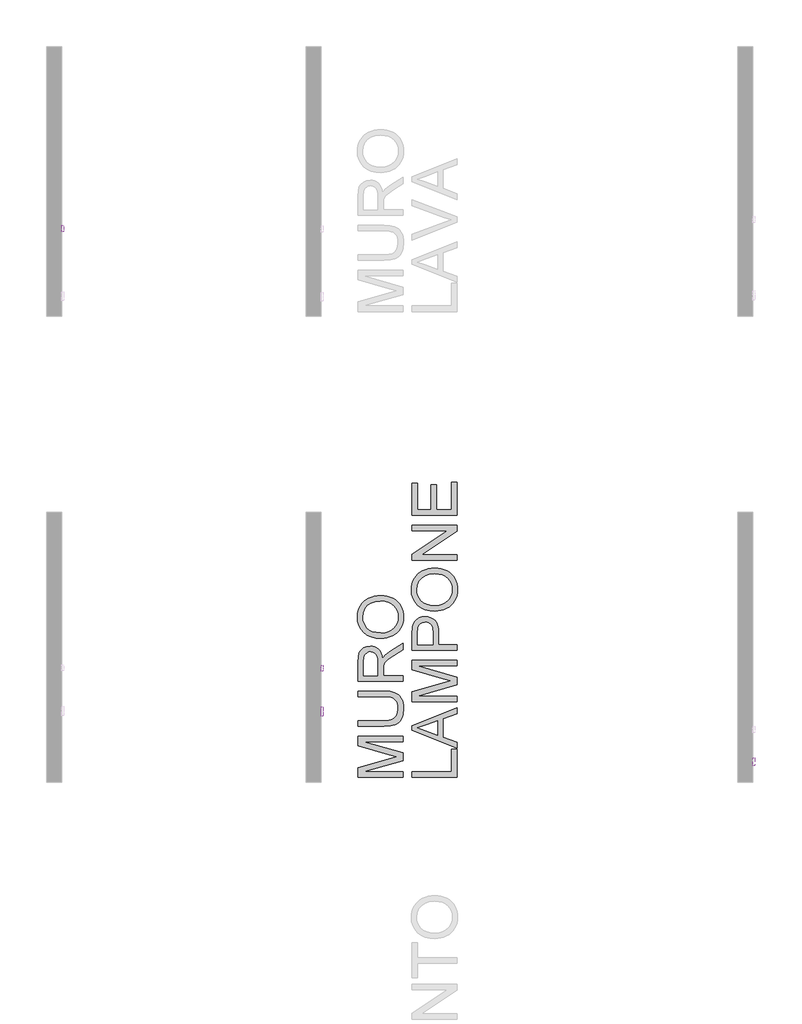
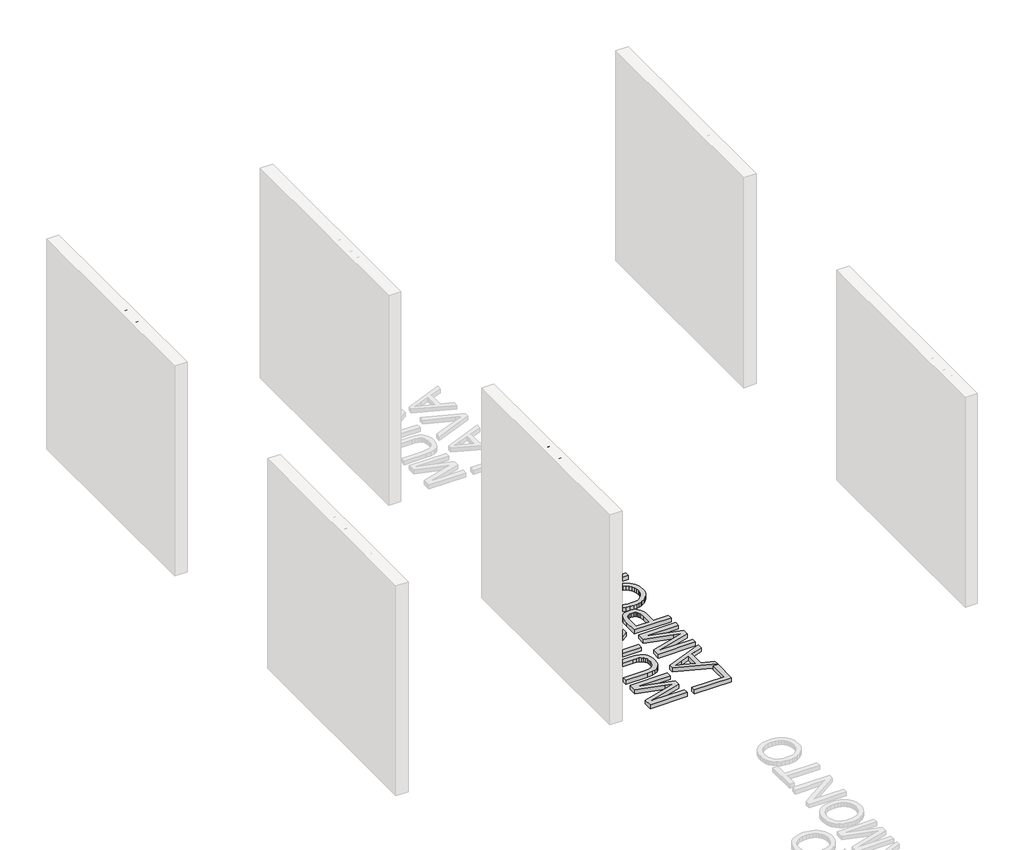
# One storey, part 8 of 11: 5 proxies.
"""IFC4 building model written with IfcOpenShell, lengths in millimetres."""

from ifc_helpers import new_model, si_unit, frame, origin, origin_with_axes, place, context, project, spatial, polyline, outline, extrude, element, save

model = new_model("IFC4")

# Units and contexts
model_context = context("Model", 3, world=origin())
ifc_project = project(units=[si_unit("LENGTHUNIT", "METRE", prefix="MILLI")], contexts=[model_context])

# Site, building, storey
site = spatial("IfcSite", under=ifc_project)
building = spatial("IfcBuilding", under=site)
storey = spatial("IfcBuildingStorey", under=building, Name="PORTOBELLO - SHOWROOM", Elevation=0.0)

# Proxies
placement = place(None, origin())
element("IfcBuildingElementProxy", 1, Name="10mm Arial", ObjectType="10mm Arial", at=placement, inside=storey, context=model_context, shape_type="SweptSolid", body=[
    extrude(outline(polyline([(-1.6884344, 2564.0223305), (-1.6884344, 2664.4786407), (19.9185014, 2664.4786407), (40.4708422, 2593.6736194), (44.6156461, 2578.8847631), (49.1038064, 2594.8998927), (69.3127907, 2664.4786407), (90.9197265, 2664.4786407), (90.9197265, 2564.0223305), (78.3626877, 2564.0223305), (78.3626877, 2651.9216019), (53.1259829, 2564.0223305), (36.1053092, 2564.0223305), (10.8686044, 2651.9216019), (10.8686044, 2564.0223305), (-1.6884344, 2564.0223305)])), frame((-30379.0012486, 0.0, 0.0), z_axis=(1.0, 0.0, 0.0), x_axis=(0.0, 1.0, 0.0)), (0.0, 0.0, 1.0), 20.0),
    extrude(outline(polyline([(158.4138099, 2564.0223305), (158.4138099, 2576.7019966), (148.5790979, 2566.0150247), (135.752279, 2562.4527007), (123.943267, 2564.9542983), (115.8008121, 2571.2328176), (112.0606785, 2580.4789185), (111.3249145, 2592.1530404), (111.3249145, 2637.7949333), (123.8819533, 2637.7949333), (123.8819533, 2598.0636778), (124.6422427, 2585.2613844), (129.6086497, 2577.744329), (138.9651151, 2575.0097395), (149.449752, 2577.8056426), (156.3781962, 2585.4207999), (158.4138099, 2599.4125785), (158.4138099, 2637.7949333), (170.9708487, 2637.7949333), (170.9708487, 2564.0223305), (158.4138099, 2564.0223305)])), frame((-30379.0012486, 0.0, 0.0), z_axis=(1.0, 0.0, 0.0), x_axis=(0.0, 1.0, 0.0)), (0.0, 0.0, 1.0), 20.0),
    extrude(outline(polyline([(188.236777, 2564.0223305), (188.236777, 2637.7949333), (199.2241859, 2637.7949333), (199.2241859, 2626.8811008), (207.0232842, 2636.936542), (214.8714334, 2639.3645632), (227.4775231, 2635.4895395), (223.2836684, 2624.2323504), (214.4545005, 2626.8075244), (207.354378, 2624.3304523), (202.8294295, 2617.4633217), (200.7938157, 2602.7970928), (200.7938157, 2564.0223305), (188.236777, 2564.0223305)])), frame((-30379.0012486, 0.0, 0.0), z_axis=(1.0, 0.0, 0.0), x_axis=(0.0, 1.0, 0.0)), (0.0, 0.0, 1.0), 20.0),
    extrude(outline(polyline([(232.1864127, 2600.9086319), (234.9026081, 2618.6957264), (243.0511943, 2631.1975829), (253.1188982, 2637.3228181), (265.1731649, 2639.3645632), (278.3648001, 2636.878294), (288.9015536, 2629.4194865), (295.808538, 2617.576752), (298.1108662, 2601.9387015), (294.0396388, 2579.5960017), (282.1815758, 2566.9531238), (265.1731649, 2562.4527007), (251.8221142, 2564.9297728), (241.2976234, 2572.3609891), (234.4642154, 2584.452044), (232.1864127, 2600.9086319)]), holes=[polyline([(244.7434514, 2600.9331574), (246.1965853, 2589.5686694), (250.555987, 2581.4721998), (257.1165492, 2576.6253546), (265.1731649, 2575.0097395), (273.1929924, 2576.6345516), (279.7412919, 2581.508988), (284.1006936, 2589.7127565), (285.5538274, 2601.3255649), (284.0914965, 2612.358959), (279.7045037, 2620.345064), (273.1470071, 2625.1919093), (265.1731649, 2626.8075244), (257.1165492, 2625.1980407), (250.555987, 2620.3695895), (246.1965853, 2612.291514), (244.7434514, 2600.9331574)])]), frame((-30379.0012486, 0.0, 0.0), z_axis=(1.0, 0.0, 0.0), x_axis=(0.0, 1.0, 0.0)), (0.0, 0.0, 1.0), 20.0),
    extrude(outline(polyline([(353.0479108, 2564.0223305), (353.0479108, 2664.4786407), (365.6049496, 2664.4786407), (365.6049496, 2576.5793693), (415.8331047, 2576.5793693), (415.8331047, 2564.0223305), (353.0479108, 2564.0223305)])), frame((-30379.0012486, 0.0, 0.0), z_axis=(1.0, 0.0, 0.0), x_axis=(0.0, 1.0, 0.0)), (0.0, 0.0, 1.0), 20.0),
    extrude(outline(polyline([(475.4790388, 2573.4401096), (463.3021448, 2564.9297728), (449.8499265, 2562.4527007), (439.3560926, 2563.9426228), (431.6152423, 2568.412389), (426.8419734, 2575.1998118), (425.2508837, 2583.6427036), (427.6543794, 2593.5755175), (433.969687, 2600.7860046), (442.7620667, 2604.9062829), (453.6268483, 2606.7947438), (475.4054624, 2611.1112259), (475.4790388, 2613.9071291), (472.0209481, 2623.1777554), (458.1395341, 2626.8075244), (445.4353425, 2624.3917659), (439.3775523, 2615.8201155), (426.8205136, 2617.3897453), (432.2529044, 2629.6524785), (443.1912624, 2636.8384401), (459.7582149, 2639.3645632), (474.9762667, 2637.1327457), (483.5724427, 2631.5286767), (487.4229409, 2623.0060771), (488.0360776, 2612.0186682), (488.0360776, 2596.3959461), (488.6737397, 2574.5805438), (491.1753373, 2564.0223305), (478.6182985, 2564.0223305), (475.4790388, 2573.4401096)]), holes=[polyline([(475.4790388, 2598.5541872), (455.2210036, 2594.7036889), (444.4175357, 2592.6680752), (439.5247051, 2589.3571373), (437.8079225, 2584.5256204), (441.5480561, 2577.7320662), (452.5232023, 2575.0097395), (465.2273939, 2578.0141091), (473.4188996, 2585.2859099), (475.4054624, 2594.9979945), (475.4790388, 2598.5541872)])]), frame((-30379.0012486, 0.0, 0.0), z_axis=(1.0, 0.0, 0.0), x_axis=(0.0, 1.0, 0.0)), (0.0, 0.0, 1.0), 20.0),
    extrude(outline(polyline([(505.3020059, 2564.0223305), (505.3020059, 2637.7949333), (517.8590447, 2637.7949333), (517.8590447, 2625.6548275), (526.4920088, 2635.5999041), (538.7792674, 2639.3645632), (551.3608317, 2635.5263277), (558.2770132, 2624.7719107), (568.074937, 2635.7164), (580.4480348, 2639.3645632), (589.8872736, 2637.8470499), (596.8678345, 2633.2945102), (601.1812509, 2625.5843167), (602.6190563, 2614.5938421), (602.6190563, 2564.0223305), (590.0620176, 2564.0223305), (590.0620176, 2609.1982395), (588.8970579, 2619.6828764), (584.6786777, 2624.8454871), (577.5049788, 2626.8075244), (565.1564065, 2621.7798038), (561.4683895, 2615.2376356), (560.2390505, 2605.6665724), (560.2390505, 2564.0223305), (547.6820117, 2564.0223305), (547.6820117, 2610.5961911), (544.775744, 2622.7608224), (535.2476003, 2626.8075244), (525.9524485, 2624.1097231), (519.772031, 2616.2125229), (517.8590447, 2601.227463), (517.8590447, 2564.0223305), (505.3020059, 2564.0223305)])), frame((-30379.0012486, 0.0, 0.0), z_axis=(1.0, 0.0, 0.0), x_axis=(0.0, 1.0, 0.0)), (0.0, 0.0, 1.0), 20.0),
    extrude(outline(polyline([(621.4546145, 2535.7689933), (621.4546145, 2637.7949333), (634.0116533, 2637.7949333), (634.0116533, 2625.4831492), (642.6936684, 2635.8942097), (654.4168413, 2639.3645632), (670.3338689, 2634.5085208), (680.7326667, 2620.8233106), (684.2398083, 2601.4727176), (680.2789455, 2581.1288433), (668.7765018, 2567.2719548), (652.8962623, 2562.4527007), (641.9701671, 2565.6777995), (634.0116533, 2573.8325171), (634.0116533, 2535.7689933), (621.4546145, 2535.7689933)]), holes=[polyline([(634.0116533, 2600.3200207), (635.369751, 2589.0628317), (639.4440441, 2581.190157), (645.455849, 2576.5548438), (652.6264822, 2575.0097395), (659.9136114, 2576.6100261), (666.0787005, 2581.4108862), (670.2817523, 2589.5717351), (671.6827696, 2601.2519885), (670.3154748, 2612.4478638), (666.2135906, 2620.4309031), (660.2109827, 2625.2133691), (653.141517, 2626.8075244), (646.0444602, 2625.1122015), (639.8119261, 2620.0262329), (635.4617215, 2611.7090342), (634.0116533, 2600.3200207)])]), frame((-30379.0012486, 0.0, 0.0), z_axis=(1.0, 0.0, 0.0), x_axis=(0.0, 1.0, 0.0)), (0.0, 0.0, 1.0), 20.0),
    extrude(outline(polyline([(695.2272173, 2600.9086319), (697.9434127, 2618.6957264), (706.0919989, 2631.1975829), (716.1597028, 2637.3228181), (728.2139695, 2639.3645632), (741.4056047, 2636.878294), (751.9423582, 2629.4194865), (758.8493426, 2617.576752), (761.1516708, 2601.9387015), (757.0804434, 2579.5960017), (745.2223804, 2566.9531238), (728.2139695, 2562.4527007), (714.8629188, 2564.9297728), (704.338428, 2572.3609891), (697.5050199, 2584.452044), (695.2272173, 2600.9086319)]), holes=[polyline([(707.784256, 2600.9331574), (709.2373899, 2589.5686694), (713.5967916, 2581.4721998), (720.1573538, 2576.6253546), (728.2139695, 2575.0097395), (736.233797, 2576.6345516), (742.7820965, 2581.508988), (747.1414981, 2589.7127565), (748.594632, 2601.3255649), (747.1323011, 2612.358959), (742.7453083, 2620.345064), (736.1878117, 2625.1919093), (728.2139695, 2626.8075244), (720.1573538, 2625.1980407), (713.5967916, 2620.3695895), (709.2373899, 2612.291514), (707.784256, 2600.9331574)])]), frame((-30379.0012486, 0.0, 0.0), z_axis=(1.0, 0.0, 0.0), x_axis=(0.0, 1.0, 0.0)), (0.0, 0.0, 1.0), 20.0),
    extrude(outline(polyline([(775.2783394, 2564.0223305), (775.2783394, 2637.7949333), (787.8353782, 2637.7949333), (787.8353782, 2627.4942374), (797.4370983, 2636.3969817), (810.54596, 2639.3645632), (822.404023, 2636.9733302), (830.4974269, 2630.6948108), (834.262086, 2621.4609727), (834.9242736, 2609.3208669), (834.9242736, 2564.0223305), (822.3672348, 2564.0223305), (822.3672348, 2607.6286097), (820.9202323, 2618.738646), (815.8066725, 2624.6124951), (807.1859711, 2626.8075244), (793.5620746, 2621.8779056), (789.2670523, 2614.7348636), (787.8353782, 2603.1649748), (787.8353782, 2564.0223305), (775.2783394, 2564.0223305)])), frame((-30379.0012486, 0.0, 0.0), z_axis=(1.0, 0.0, 0.0), x_axis=(0.0, 1.0, 0.0)), (0.0, 0.0, 1.0), 20.0),
    extrude(outline(polyline([(903.840834, 2585.9971484), (916.1526181, 2584.4275185), (911.7165744, 2575.1507609), (904.6379116, 2568.2161853), (895.0760455, 2563.8935718), (883.1903913, 2562.4527007), (868.4567174, 2564.9389698), (857.1198206, 2572.3977773), (849.8909394, 2584.3447451), (847.4813123, 2600.2954953), (849.9154649, 2616.78274), (857.2179225, 2629.1129182), (868.4015351, 2636.8016519), (882.4791528, 2639.3645632), (896.1183778, 2636.8077833), (907.0168819, 2629.1374437), (914.1629896, 2616.8317909), (916.5450256, 2600.3690717), (916.4714492, 2596.9845573), (860.0383511, 2596.9845573), (862.2119206, 2587.5851723), (867.2611009, 2580.6751222), (874.5482301, 2576.4260851), (883.435646, 2575.0097395), (895.7474301, 2577.6339644), (903.840834, 2585.9971484)]), holes=[polyline([(860.0383511, 2609.5415961), (903.9879868, 2609.5415961), (898.9602662, 2620.9214125), (891.6394145, 2625.3359964), (882.4301019, 2626.8075244), (866.9667953, 2622.1108976), (862.101556, 2616.6202588), (860.0383511, 2609.5415961)])]), frame((-30379.0012486, 0.0, 0.0), z_axis=(1.0, 0.0, 0.0), x_axis=(0.0, 1.0, 0.0)), (0.0, 0.0, 1.0), 20.0),
])
element("IfcBuildingElementProxy", 2, Name="10mm Arial", ObjectType="10mm Arial", at=placement, inside=storey, context=model_context, shape_type="SweptSolid", body=[
    extrude(outline(polyline([(11.213076, 2562.4858779), (11.213076, 2662.942188), (24.6530315, 2662.942188), (77.1375295, 2583.3570497), (77.1375295, 2662.942188), (89.6945683, 2662.942188), (89.6945683, 2562.4858779), (76.2546127, 2562.4858779), (23.7701147, 2642.0955416), (23.7701147, 2562.4858779), (11.213076, 2562.4858779)])), frame((-26058.2301018, 0.0, 0.0), z_axis=(1.0, 0.0, 0.0), x_axis=(0.0, 1.0, 0.0)), (0.0, 0.0, 1.0), 20.0),
    extrude(outline(polyline([(161.7503884, 2584.4606957), (174.0621725, 2582.8910659), (169.6261288, 2573.6143082), (162.547466, 2566.6797326), (152.9855999, 2562.3571192), (141.0999457, 2560.916248), (126.3662718, 2563.4025172), (115.029375, 2570.8613246), (107.8004938, 2582.8082924), (105.3908667, 2598.7590426), (107.8250193, 2615.2462874), (115.1274769, 2627.5764656), (126.3110895, 2635.2651993), (140.3887072, 2637.8281105), (154.0279322, 2635.2713306), (164.9264363, 2627.600991), (172.072544, 2615.2953383), (174.45458, 2598.832619), (174.3810036, 2595.4481047), (117.9479055, 2595.4481047), (120.121475, 2586.0487197), (125.1706553, 2579.1386695), (132.4577845, 2574.8896325), (141.3452004, 2573.4732868), (153.6569845, 2576.0975117), (161.7503884, 2584.4606957)]), holes=[polyline([(117.9479055, 2608.0051434), (161.8975412, 2608.0051434), (156.8698206, 2619.3849598), (149.5489689, 2623.7995437), (140.3396563, 2625.2710717), (124.8763497, 2620.5744449), (120.0111104, 2615.0838061), (117.9479055, 2608.0051434)])]), frame((-26058.2301018, 0.0, 0.0), z_axis=(1.0, 0.0, 0.0), x_axis=(0.0, 1.0, 0.0)), (0.0, 0.0, 1.0), 20.0),
    extrude(outline(polyline([(187.0116187, 2562.4858779), (187.0116187, 2636.2584807), (197.9990277, 2636.2584807), (197.9990277, 2625.3446481), (205.7981259, 2635.4000893), (213.6462752, 2637.8281105), (226.2523649, 2633.9530868), (222.0585101, 2622.6958978), (213.2293423, 2625.2710717), (206.1292197, 2622.7939996), (201.6042712, 2615.9268691), (199.5686575, 2601.2606402), (199.5686575, 2562.4858779), (187.0116187, 2562.4858779)])), frame((-26058.2301018, 0.0, 0.0), z_axis=(1.0, 0.0, 0.0), x_axis=(0.0, 1.0, 0.0)), (0.0, 0.0, 1.0), 20.0),
    extrude(outline(polyline([(281.1894095, 2571.903657), (269.0125155, 2563.3933201), (255.5602972, 2560.916248), (245.0664633, 2562.4061701), (237.3256129, 2566.8759364), (232.552344, 2573.6633592), (230.9612544, 2582.106251), (233.3647501, 2592.0390648), (239.6800577, 2599.2495519), (248.4724374, 2603.3698303), (259.337219, 2605.2582912), (281.1158331, 2609.5747733), (281.1894095, 2612.3706764), (277.7313187, 2621.6413027), (263.8499048, 2625.2710717), (251.1457132, 2622.8553133), (245.087923, 2614.2836628), (232.5308843, 2615.8532927), (237.9632751, 2628.1160258), (248.901633, 2635.3019875), (265.4685856, 2637.8281105), (280.6866374, 2635.5962931), (289.2828134, 2629.992224), (293.1333116, 2621.4696244), (293.7464483, 2610.4822155), (293.7464483, 2594.8594935), (294.3841104, 2573.0440911), (296.885708, 2562.4858779), (284.3286692, 2562.4858779), (281.1894095, 2571.903657)]), holes=[polyline([(281.1894095, 2597.0177345), (260.9313743, 2593.1672363), (250.1279064, 2591.1316226), (245.2350758, 2587.8206846), (243.5182932, 2582.9891677), (247.2584268, 2576.1956136), (258.233573, 2573.4732868), (270.9377646, 2576.4776564), (279.1292703, 2583.7494572), (281.1158331, 2593.4615419), (281.1894095, 2597.0177345)])]), frame((-26058.2301018, 0.0, 0.0), z_axis=(1.0, 0.0, 0.0), x_axis=(0.0, 1.0, 0.0)), (0.0, 0.0, 1.0), 20.0),
])
element("IfcBuildingElementProxy", 3, Name="10mm Arial Narrow", ObjectType="10mm Arial Narrow", at=placement, inside=storey, context=model_context, shape_type="SweptSolid", body=[
    extrude(outline(polyline([(955.4466247, 2564.0223305), (955.4466247, 2664.7409343), (986.7435094, 2664.7409343), (1003.0392109, 2662.8626136), (1014.512197, 2653.3821704), (1018.8018755, 2636.3630616), (1017.0155671, 2624.287236), (1011.6566419, 2614.6608423), (1001.912853, 2608.3595838), (986.9719538, 2606.2591644), (965.1935864, 2606.2591644), (965.1935864, 2564.0223305), (955.4466247, 2564.0223305)]), holes=[polyline([(965.1935864, 2617.6306196), (988.1649413, 2617.6306196), (1004.0291367, 2622.1614338), (1009.0549138, 2635.8300246), (1006.5800993, 2645.995801), (1000.6024705, 2651.7957508), (987.9364969, 2653.369479), (965.1935864, 2653.369479), (965.1935864, 2617.6306196)])]), frame((-30379.0012486, 0.0, 0.0), z_axis=(1.0, 0.0, 0.0), x_axis=(0.0, 1.0, 0.0)), (0.0, 0.0, 1.0), 20.0),
    extrude(outline(polyline([(1026.9243435, 2600.5734367), (1028.8788124, 2617.1642123), (1034.742219, 2629.1162971), (1043.6007857, 2636.3408517), (1054.5407349, 2638.7490365), (1065.3537704, 2636.3408517), (1074.2377199, 2629.1162971), (1080.1772746, 2617.3545826), (1082.1571262, 2601.3349181), (1080.2121759, 2584.1730315), (1074.3773248, 2572.0305764), (1065.5282766, 2564.8060218), (1054.5407349, 2562.3978369), (1043.6801067, 2564.8123675), (1034.8056758, 2572.0559591), (1028.8946766, 2584.0143896), (1026.9243435, 2600.5734367)]), holes=[polyline([(1036.6713052, 2600.5988195), (1037.975342, 2588.0470681), (1041.8874526, 2579.17581), (1047.7286494, 2573.9025514), (1054.8199447, 2572.1447986), (1061.5400179, 2573.9184156), (1067.2320912, 2579.2392668), (1071.1156462, 2588.126389), (1072.4101646, 2600.5988195), (1071.1061277, 2613.1124968), (1067.1940171, 2621.9710635), (1061.3528204, 2627.244322), (1054.261525, 2629.0020749), (1047.4938593, 2627.2348035), (1041.8113045, 2621.9329894), (1037.956305, 2613.0649042), (1036.6713052, 2600.5988195)])]), frame((-30379.0012486, 0.0, 0.0), z_axis=(1.0, 0.0, 0.0), x_axis=(0.0, 1.0, 0.0)), (0.0, 0.0, 1.0), 20.0),
    extrude(outline(polyline([(1153.634845, 2572.1447986), (1155.2593386, 2562.3978369), (1147.898352, 2562.3978369), (1139.6235876, 2564.5172934), (1135.3085265, 2570.3172433), (1134.1409217, 2584.9630685), (1134.1409217, 2627.3775813), (1126.0184537, 2627.3775813), (1126.0184537, 2630.6265685), (1124.39396, 2625.7530877), (1116.8299117, 2627.3775813), (1110.750752, 2625.0550631), (1106.8798883, 2618.56978), (1104.9000367, 2603.1624734), (1104.9000367, 2564.0223305), (1095.1530751, 2564.0223305), (1095.1530751, 2637.1245429), (1104.9000367, 2637.1245429), (1104.9000367, 2627.4283467), (1111.1441841, 2636.5153578), (1117.5406276, 2638.7490365), (1126.0184537, 2637.1245429), (1134.1409217, 2637.1245429), (1134.1409217, 2653.369479), (1143.8878834, 2661.4919471), (1143.8878834, 2637.1245429), (1153.634845, 2637.1245429), (1153.634845, 2627.3775813), (1143.8878834, 2627.3775813), (1143.8878834, 2582.7293898), (1144.7508956, 2574.7338353), (1149.3705493, 2572.1447986), (1153.634845, 2572.1447986)])), frame((-30379.0012486, 0.0, 0.0), z_axis=(1.0, 0.0, 0.0), x_axis=(0.0, 1.0, 0.0)), (0.0, 0.0, 1.0), 20.0),
    extrude(outline(polyline([(1160.1328194, 2600.5734367), (1162.0872883, 2617.1642123), (1167.9506949, 2629.1162971), (1176.8092616, 2636.3408517), (1187.7492108, 2638.7490365), (1198.5622464, 2636.3408517), (1207.4461958, 2629.1162971), (1213.3857506, 2617.3545826), (1215.3656021, 2601.3349181), (1213.4206518, 2584.1730315), (1207.5858007, 2572.0305764), (1198.7367525, 2564.8060218), (1187.7492108, 2562.3978369), (1176.8885826, 2564.8123675), (1168.0141517, 2572.0559591), (1162.1031525, 2584.0143896), (1160.1328194, 2600.5734367)]), holes=[polyline([(1169.8797811, 2600.5988195), (1171.183818, 2588.0470681), (1175.0959285, 2579.17581), (1180.9371253, 2573.9025514), (1188.0284206, 2572.1447986), (1194.7484938, 2573.9184156), (1200.4405671, 2579.2392668), (1204.3241221, 2588.126389), (1205.6186405, 2600.5988195), (1204.3146036, 2613.1124968), (1200.402493, 2621.9710635), (1194.5612963, 2627.244322), (1187.470001, 2629.0020749), (1180.7023352, 2627.2348035), (1175.0197804, 2621.9329894), (1171.1647809, 2613.0649042), (1169.8797811, 2600.5988195)])]), frame((-30379.0012486, 0.0, 0.0), z_axis=(1.0, 0.0, 0.0), x_axis=(0.0, 1.0, 0.0)), (0.0, 0.0, 1.0), 20.0),
    extrude(outline(polyline([(1238.1085127, 2564.0223305), (1228.361551, 2564.0223305), (1228.361551, 2664.7409343), (1238.1085127, 2664.7409343), (1238.1085127, 2629.3320502), (1245.5075734, 2636.413827), (1254.7088067, 2638.7490365), (1267.5905334, 2634.5481976), (1276.8679149, 2621.8187672), (1280.3453465, 2601.1318564), (1278.4130875, 2584.6775129), (1272.6163105, 2572.4747738), (1264.2431882, 2564.9170712), (1254.5818932, 2562.3978369), (1245.2410549, 2565.0122563), (1238.1085127, 2572.7793664), (1238.1085127, 2564.0223305)]), holes=[polyline([(1238.1085127, 2601.1318564), (1240.1898951, 2583.8843032), (1246.0786844, 2575.15265), (1254.5311277, 2572.1447986), (1260.4738553, 2573.9342798), (1265.7122127, 2579.3027235), (1270.5983849, 2600.725733), (1265.8898917, 2622.1614338), (1260.6451887, 2627.2919146), (1254.328066, 2629.0020749), (1248.3504372, 2627.2125937), (1243.0581416, 2621.8441499), (1238.1085127, 2601.1318564)])]), frame((-30379.0012486, 0.0, 0.0), z_axis=(1.0, 0.0, 0.0), x_axis=(0.0, 1.0, 0.0)), (0.0, 0.0, 1.0), 20.0),
    extrude(outline(polyline([(1332.329142, 2586.7652411), (1342.0761036, 2585.1407475), (1338.3765733, 2575.2541809), (1332.5575864, 2568.13433), (1324.8539331, 2563.8319602), (1315.5004035, 2562.3978369), (1303.9068495, 2564.8123675), (1294.7627273, 2572.0559591), (1288.8231725, 2583.8620933), (1286.8433209, 2599.9642516), (1288.832691, 2616.6311753), (1294.8008014, 2628.8117046), (1303.8148372, 2636.2647036), (1314.9419838, 2638.7490365), (1325.624933, 2636.3503702), (1334.3724504, 2629.1543712), (1340.2073014, 2617.4148666), (1342.1522518, 2601.3856835), (1342.0761036, 2598.1366963), (1296.5902826, 2598.1366963), (1302.5932941, 2578.6935384), (1308.5233304, 2573.7819835), (1315.6273171, 2572.1447986), (1325.8057848, 2575.7999092), (1332.329142, 2586.7652411)]), holes=[polyline([(1297.2502331, 2607.883658), (1332.329142, 2607.883658), (1328.0648463, 2622.1487425), (1322.2395137, 2627.2887418), (1315.018132, 2629.0020749), (1302.8090472, 2623.2909646), (1297.2502331, 2607.883658)])]), frame((-30379.0012486, 0.0, 0.0), z_axis=(1.0, 0.0, 0.0), x_axis=(0.0, 1.0, 0.0)), (0.0, 0.0, 1.0), 20.0),
    extrude(outline(polyline([(-30359.0012486, 1364.8190142), (-30359.0012486, 1355.0720525), (-30379.0012486, 1355.0720525), (-30379.0012486, 1364.8190142), (-30359.0012486, 1364.8190142)])), frame((0.0, 0.0, 2564.0223305), z_axis=(0.0, 0.0, 1.0), x_axis=(1.0, 0.0, 0.0)), (0.0, 0.0, 1.0), 100.7186038),
    extrude(outline(polyline([(-30359.0012486, 1390.8109119), (-30359.0012486, 1381.0639503), (-30379.0012486, 1381.0639503), (-30379.0012486, 1390.8109119), (-30359.0012486, 1390.8109119)])), frame((0.0, 0.0, 2564.0223305), z_axis=(0.0, 0.0, 1.0), x_axis=(1.0, 0.0, 0.0)), (0.0, 0.0, 1.0), 100.7186038),
    extrude(outline(polyline([(1402.1823672, 2600.5734367), (1404.136836, 2617.1642123), (1410.0002427, 2629.1162971), (1418.8588094, 2636.3408517), (1429.7987585, 2638.7490365), (1440.6117941, 2636.3408517), (1449.4957435, 2629.1162971), (1455.4352983, 2617.3545826), (1457.4151499, 2601.3349181), (1455.4701995, 2584.1730315), (1449.6353485, 2572.0305764), (1440.7863003, 2564.8060218), (1429.7987585, 2562.3978369), (1418.9381304, 2564.8123675), (1410.0636994, 2572.0559591), (1404.1527002, 2584.0143896), (1402.1823672, 2600.5734367)]), holes=[polyline([(1411.9293288, 2600.5988195), (1413.2333657, 2588.0470681), (1417.1454763, 2579.17581), (1422.986673, 2573.9025514), (1430.0779684, 2572.1447986), (1436.7980415, 2573.9184156), (1442.4901148, 2579.2392668), (1446.3736699, 2588.126389), (1447.6681882, 2600.5988195), (1446.3641514, 2613.1124968), (1442.4520408, 2621.9710635), (1436.610844, 2627.244322), (1429.5195487, 2629.0020749), (1422.7518829, 2627.2348035), (1417.0693281, 2621.9329894), (1413.2143287, 2613.0649042), (1411.9293288, 2600.5988195)])]), frame((-30379.0012486, 0.0, 0.0), z_axis=(1.0, 0.0, 0.0), x_axis=(0.0, 1.0, 0.0)), (0.0, 0.0, 1.0), 20.0),
])
element("IfcBuildingElementProxy", 4, Name="10mm Arial Narrow", ObjectType="10mm Arial Narrow", at=placement, inside=storey, context=model_context, shape_type="SweptSolid", body=[
    extrude(outline(polyline([(5352.5727237, 2563.7332584), (5352.5727237, 2664.4518621), (5383.8696084, 2664.4518621), (5400.1653099, 2662.5735414), (5411.638296, 2653.0930982), (5415.9279745, 2636.0739894), (5414.1416661, 2623.9981638), (5408.7827408, 2614.3717701), (5399.038952, 2608.0705117), (5384.0980528, 2605.9700922), (5362.3196854, 2605.9700922), (5362.3196854, 2563.7332584), (5352.5727237, 2563.7332584)]), holes=[polyline([(5362.3196854, 2617.3415474), (5385.2910403, 2617.3415474), (5401.1552357, 2621.8723617), (5406.1810128, 2635.5409524), (5403.7061983, 2645.7067288), (5397.7285695, 2651.5066787), (5385.0625959, 2653.0804068), (5362.3196854, 2653.0804068), (5362.3196854, 2617.3415474)])]), frame((-32979.0012486, 0.0, 0.0), z_axis=(1.0, 0.0, 0.0), x_axis=(0.0, 1.0, 0.0)), (0.0, 0.0, 1.0), 20.0),
    extrude(outline(polyline([(5424.0504425, 2600.2843646), (5426.0049114, 2616.8751401), (5431.868318, 2628.8272249), (5440.7268847, 2636.0517795), (5451.6668339, 2638.4599644), (5462.4798694, 2636.0517795), (5471.3638189, 2628.8272249), (5477.3033736, 2617.0655104), (5479.2832252, 2601.0458459), (5477.3382748, 2583.8839594), (5471.5034238, 2571.7415042), (5462.6543756, 2564.5169496), (5451.6668339, 2562.1087647), (5440.8062057, 2564.5232953), (5431.9317748, 2571.7668869), (5426.0207756, 2583.7253174), (5424.0504425, 2600.2843646)]), holes=[polyline([(5433.7974042, 2600.3097473), (5435.101441, 2587.7579959), (5439.0135516, 2578.8867378), (5444.8547483, 2573.6134792), (5451.9460437, 2571.8557264), (5458.6661169, 2573.6293434), (5464.3581902, 2578.9501946), (5468.2417452, 2587.8373168), (5469.5362636, 2600.3097473), (5468.2322267, 2612.8234246), (5464.3201161, 2621.6819913), (5458.4789194, 2626.9552499), (5451.387624, 2628.7130027), (5444.6199583, 2626.9457313), (5438.9374035, 2621.6439172), (5435.082404, 2612.775832), (5433.7974042, 2600.3097473)])]), frame((-32979.0012486, 0.0, 0.0), z_axis=(1.0, 0.0, 0.0), x_axis=(0.0, 1.0, 0.0)), (0.0, 0.0, 1.0), 20.0),
    extrude(outline(polyline([(5550.760944, 2571.8557264), (5552.3854376, 2562.1087647), (5545.0244509, 2562.1087647), (5536.7496866, 2564.2282213), (5532.4346255, 2570.0281711), (5531.2670207, 2584.6739963), (5531.2670207, 2627.0885091), (5523.1445526, 2627.0885091), (5523.1445526, 2630.3374963), (5521.520059, 2625.4640155), (5513.9560107, 2627.0885091), (5507.876851, 2624.7659909), (5504.0059873, 2618.2807078), (5502.0261357, 2602.8734012), (5502.0261357, 2563.7332584), (5492.2791741, 2563.7332584), (5492.2791741, 2636.8354708), (5502.0261357, 2636.8354708), (5502.0261357, 2627.1392745), (5508.270283, 2636.2262857), (5514.6667266, 2638.4599644), (5523.1445526, 2636.8354708), (5531.2670207, 2636.8354708), (5531.2670207, 2653.0804068), (5541.0139823, 2661.2028749), (5541.0139823, 2636.8354708), (5550.760944, 2636.8354708), (5550.760944, 2627.0885091), (5541.0139823, 2627.0885091), (5541.0139823, 2582.4403176), (5541.8769946, 2574.4447631), (5546.4966483, 2571.8557264), (5550.760944, 2571.8557264)])), frame((-32979.0012486, 0.0, 0.0), z_axis=(1.0, 0.0, 0.0), x_axis=(0.0, 1.0, 0.0)), (0.0, 0.0, 1.0), 20.0),
    extrude(outline(polyline([(5557.2589184, 2600.2843646), (5559.2133873, 2616.8751401), (5565.0767939, 2628.8272249), (5573.9353606, 2636.0517795), (5584.8753098, 2638.4599644), (5595.6883454, 2636.0517795), (5604.5722948, 2628.8272249), (5610.5118495, 2617.0655104), (5612.4917011, 2601.0458459), (5610.5467508, 2583.8839594), (5604.7118997, 2571.7415042), (5595.8628515, 2564.5169496), (5584.8753098, 2562.1087647), (5574.0146816, 2564.5232953), (5565.1402507, 2571.7668869), (5559.2292515, 2583.7253174), (5557.2589184, 2600.2843646)]), holes=[polyline([(5567.0058801, 2600.3097473), (5568.3099169, 2587.7579959), (5572.2220275, 2578.8867378), (5578.0632243, 2573.6134792), (5585.1545196, 2571.8557264), (5591.8745928, 2573.6293434), (5597.5666661, 2578.9501946), (5601.4502211, 2587.8373168), (5602.7447395, 2600.3097473), (5601.4407026, 2612.8234246), (5597.528592, 2621.6819913), (5591.6873953, 2626.9552499), (5584.5960999, 2628.7130027), (5577.8284342, 2626.9457313), (5572.1458794, 2621.6439172), (5568.2908799, 2612.775832), (5567.0058801, 2600.3097473)])]), frame((-32979.0012486, 0.0, 0.0), z_axis=(1.0, 0.0, 0.0), x_axis=(0.0, 1.0, 0.0)), (0.0, 0.0, 1.0), 20.0),
    extrude(outline(polyline([(5635.2346117, 2563.7332584), (5625.48765, 2563.7332584), (5625.48765, 2664.4518621), (5635.2346117, 2664.4518621), (5635.2346117, 2629.042978), (5642.6336724, 2636.1247548), (5651.8349057, 2638.4599644), (5664.7166324, 2634.2591254), (5673.9940139, 2621.529695), (5677.4714455, 2600.8427842), (5675.5391865, 2584.3884408), (5669.7424095, 2572.1857017), (5661.3692872, 2564.627999), (5651.7079922, 2562.1087647), (5642.3671539, 2564.7231841), (5635.2346117, 2572.4902942), (5635.2346117, 2563.7332584)]), holes=[polyline([(5635.2346117, 2600.8427842), (5637.3159941, 2583.595231), (5643.2047834, 2574.8635778), (5651.6572267, 2571.8557264), (5657.5999543, 2573.6452076), (5662.8383117, 2579.0136514), (5667.7244838, 2600.4366608), (5663.0159906, 2621.8723617), (5657.7712876, 2627.0028424), (5651.454165, 2628.7130027), (5645.4765362, 2626.9235215), (5640.1842406, 2621.5550777), (5635.2346117, 2600.8427842)])]), frame((-32979.0012486, 0.0, 0.0), z_axis=(1.0, 0.0, 0.0), x_axis=(0.0, 1.0, 0.0)), (0.0, 0.0, 1.0), 20.0),
    extrude(outline(polyline([(5729.455241, 2586.4761689), (5739.2022026, 2584.8516753), (5735.5026723, 2574.9651087), (5729.6836854, 2567.8452578), (5721.9800321, 2563.542888), (5712.6265025, 2562.1087647), (5701.0329485, 2564.5232953), (5691.8888263, 2571.7668869), (5685.9492715, 2583.5730211), (5683.9694199, 2599.6751795), (5685.95879, 2616.3421031), (5691.9269003, 2628.5226324), (5700.9409362, 2635.9756314), (5712.0680828, 2638.4599644), (5722.751032, 2636.061298), (5731.4985493, 2628.865299), (5737.3334004, 2617.1257944), (5739.2783508, 2601.0966114), (5739.2022026, 2597.8476241), (5693.7163816, 2597.8476241), (5699.7193931, 2578.4044663), (5705.6494294, 2573.4929114), (5712.7534161, 2571.8557264), (5722.9318838, 2575.510837), (5729.455241, 2586.4761689)]), holes=[polyline([(5694.3763321, 2607.5945858), (5729.455241, 2607.5945858), (5725.1909453, 2621.8596703), (5719.3656127, 2626.9996696), (5712.144231, 2628.7130027), (5699.9351462, 2623.0018924), (5694.3763321, 2607.5945858)])]), frame((-32979.0012486, 0.0, 0.0), z_axis=(1.0, 0.0, 0.0), x_axis=(0.0, 1.0, 0.0)), (0.0, 0.0, 1.0), 20.0),
    extrude(outline(polyline([(-32959.0012486, 5761.9451132), (-32959.0012486, 5752.1981515), (-32979.0012486, 5752.1981515), (-32979.0012486, 5761.9451132), (-32959.0012486, 5761.9451132)])), frame((0.0, 0.0, 2563.7332584), z_axis=(0.0, 0.0, 1.0), x_axis=(1.0, 0.0, 0.0)), (0.0, 0.0, 1.0), 100.7186038),
    extrude(outline(polyline([(-32959.0012486, 5787.9370109), (-32959.0012486, 5778.1900492), (-32979.0012486, 5778.1900492), (-32979.0012486, 5787.9370109), (-32959.0012486, 5787.9370109)])), frame((0.0, 0.0, 2563.7332584), z_axis=(0.0, 0.0, 1.0), x_axis=(1.0, 0.0, 0.0)), (0.0, 0.0, 1.0), 100.7186038),
    extrude(outline(polyline([(5799.3084662, 2600.2843646), (5801.262935, 2616.8751401), (5807.1263417, 2628.8272249), (5815.9849084, 2636.0517795), (5826.9248575, 2638.4599644), (5837.7378931, 2636.0517795), (5846.6218425, 2628.8272249), (5852.5613973, 2617.0655104), (5854.5412489, 2601.0458459), (5852.5962985, 2583.8839594), (5846.7614474, 2571.7415042), (5837.9123992, 2564.5169496), (5826.9248575, 2562.1087647), (5816.0642293, 2564.5232953), (5807.1897984, 2571.7668869), (5801.2787992, 2583.7253174), (5799.3084662, 2600.2843646)]), holes=[polyline([(5809.0554278, 2600.3097473), (5810.3594647, 2587.7579959), (5814.2715753, 2578.8867378), (5820.112772, 2573.6134792), (5827.2040674, 2571.8557264), (5833.9241405, 2573.6293434), (5839.6162138, 2578.9501946), (5843.4997689, 2587.8373168), (5844.7942872, 2600.3097473), (5843.4902503, 2612.8234246), (5839.5781398, 2621.6819913), (5833.736943, 2626.9552499), (5826.6456477, 2628.7130027), (5819.8779819, 2626.9457313), (5814.1954271, 2621.6439172), (5810.3404276, 2612.775832), (5809.0554278, 2600.3097473)])]), frame((-32979.0012486, 0.0, 0.0), z_axis=(1.0, 0.0, 0.0), x_axis=(0.0, 1.0, 0.0)), (0.0, 0.0, 1.0), 20.0),
])
element("IfcBuildingElementProxy", 5, Name="450mm Arial", ObjectType="450mm Arial", at=placement, inside=storey, context=model_context, shape_type="SweptSolid", body=[
    extrude(outline(polyline([(-29561.5974385, -105.8455518), (-30011.2535813, -105.8455518), (-30011.2535813, -9.1299605), (-29694.3206505, 82.8651195), (-29628.1237135, 101.4178265), (-29699.8096171, 121.5074442), (-30011.2535813, 211.9656136), (-30011.2535813, 308.6812049), (-29561.5974385, 308.6812049), (-29561.5974385, 252.474187), (-29955.0465634, 252.474187), (-29561.5974385, 139.5112547), (-29561.5974385, 63.3243984), (-29955.0465634, -49.6385339), (-29561.5974385, -49.6385339), (-29561.5974385, -105.8455518)])), origin_with_axes(), (0.0, 0.0, 1.0), 50.0),
    extrude(outline(polyline([(-30011.2535813, 702.1303298), (-30011.2535813, 758.3373477), (-29751.8450204, 758.3373477), (-29691.0958827, 754.5225159), (-29644.3161649, 743.0780206), (-29625.3449242, 733.9183076), (-29608.2262096, 721.6984957), (-29592.9600213, 706.418585), (-29579.5463592, 688.0785754), (-29568.6198851, 666.6578833), (-29560.8152607, 642.135925), (-29556.1324861, 614.5127007), (-29554.5715612, 583.7882102), (-29560.0056382, 526.7166801), (-29566.7982343, 502.4726008), (-29576.3078689, 481.0896454), (-29588.3938872, 462.5643831), (-29602.9156344, 446.8933835), (-29619.8731106, 434.0766465), (-29639.2663157, 424.1141722), (-29688.0220614, 411.3111576), (-29751.8450204, 407.0434861), (-30011.2535813, 407.0434861), (-30011.2535813, 463.250504), (-29753.8210483, 463.250504), (-29703.3088333, 466.0224321), (-29668.1382799, 474.3382165), (-29643.7809907, 489.4054297), (-29625.7085682, 512.4316446), (-29614.5110764, 542.4562918), (-29610.7785791, 578.5188023), (-29612.6242441, 609.4971575), (-29618.1612391, 635.6863893), (-29627.3895642, 657.0864978), (-29640.3092193, 673.6974829), (-29658.4776987, 686.1368534), (-29683.4524967, 695.0221181), (-29715.2336132, 700.3532769), (-29753.8210483, 702.1303298), (-30011.2535813, 702.1303298)])), origin_with_axes(), (0.0, 0.0, 1.0), 50.0),
    extrude(outline(polyline([(-29561.5974385, 856.6996289), (-30011.2535813, 856.6996289), (-30011.2535813, 1050.4601495), (-30008.2209272, 1102.5367199), (-29999.1229651, 1140.4243118), (-29982.3267274, 1168.1161482), (-29956.1992464, 1189.6054524), (-29923.8006211, 1203.396481), (-29888.1909504, 1207.9934905), (-29865.0961235, 1206.0895052), (-29843.89499, 1200.3775494), (-29824.5875501, 1190.8576229), (-29807.1738036, 1177.5297259), (-29792.2095084, 1160.2223282), (-29780.2504225, 1138.7638994), (-29771.2965457, 1113.1544397), (-29765.3478782, 1083.393949), (-29741.3062045, 1115.3397345), (-29683.4524967, 1160.8981572), (-29561.5974385, 1235.8774408), (-29561.5974385, 1170.5587384), (-29654.8000911, 1112.0463546), (-29716.4960756, 1069.7813118), (-29734.4861635, 1054.069145), (-29745.6424881, 1040.0860026), (-29756.345973, 1013.3547353), (-29758.3220009, 980.7502738), (-29758.3220009, 912.9066468), (-29561.5974385, 912.9066468), (-29561.5974385, 856.6996289)]), holes=[polyline([(-29814.5290188, 912.9066468), (-29814.5290188, 1038.713761), (-29816.5187692, 1074.8448835), (-29822.4880204, 1102.8797804), (-29832.8347224, 1123.9848569), (-29847.9568253, 1139.3265185), (-29866.2488065, 1148.6714841), (-29886.1051431, 1151.7864726), (-29900.4793743, 1150.3010211), (-29913.5225312, 1145.8446663), (-29935.6156217, 1128.0192473), (-29944.1166587, 1114.4100408), (-29950.188828, 1097.3496465), (-29955.0465634, 1052.8752947), (-29955.0465634, 912.9066468), (-29814.5290188, 912.9066468)])]), origin_with_axes(), (0.0, 0.0, 1.0), 50.0),
    extrude(outline(polyline([(-29780.497426, 1285.27814), (-29833.2395337, 1289.0243597), (-29879.9300557, 1300.2630188), (-29920.5689921, 1318.9941173), (-29955.1563428, 1345.2176552), (-29982.7727059, 1377.3624158), (-30002.4986796, 1413.8571824), (-30014.3342638, 1454.701955), (-30018.2794585, 1499.8967336), (-30016.4269323, 1530.1478007), (-30010.8693536, 1558.8756796), (-30001.6067225, 1586.0803702), (-29988.6390389, 1611.7618727), (-29972.3573918, 1635.19976), (-29953.15287, 1655.6736053), (-29931.0254734, 1673.1834088), (-29905.9752021, 1687.7291702), (-29878.5715365, 1699.1599431), (-29849.3839566, 1707.3247809), (-29818.4124627, 1712.2236836), (-29785.6570546, 1713.8566512), (-29752.4693903, 1712.1379185), (-29721.0793627, 1706.9817205), (-29691.4869715, 1698.3880572), (-29663.692217, 1686.3569286), (-29638.4292483, 1671.1730747), (-29616.4322147, 1653.1212359), (-29597.7011162, 1632.201412), (-29582.2359528, 1608.413603), (-29570.1327815, 1582.694364), (-29561.4876591, 1555.9802497), (-29556.3005857, 1528.2712603), (-29554.5715612, 1499.5673956), (-29556.4824077, 1468.7880155), (-29562.2149472, 1439.6827701), (-29571.7691797, 1412.2516596), (-29585.1451051, 1386.4946839), (-29601.8247023, 1363.0842414), (-29621.2899501, 1342.6927305), (-29643.5408484, 1325.3201513), (-29668.5773972, 1310.9665037), (-29695.3944296, 1299.7278446), (-29722.9867785, 1291.700231), (-29751.354444, 1286.8836628), (-29780.497426, 1285.27814)]), holes=[polyline([(-29779.9485293, 1341.4851579), (-29742.6853074, 1344.2948227), (-29709.6074225, 1352.723817), (-29680.7148746, 1366.7721408), (-29656.0076638, 1386.4397942), (-29636.2199392, 1410.3476743), (-29622.0858503, 1437.1166783), (-29613.6053969, 1466.746806), (-29610.7785791, 1499.2380576), (-29613.6328417, 1532.2850671), (-29622.1956296, 1562.2651165), (-29636.4669427, 1589.1782057), (-29656.4467811, 1613.024335), (-29681.6754438, 1632.547903), (-29711.6932298, 1646.4933087), (-29746.5001392, 1654.8605522), (-29786.0961719, 1657.6496333), (-29835.853654, 1652.8742324), (-29878.8597072, 1638.5480296), (-29914.0302606, 1615.0415302), (-29940.2812433, 1582.7252394), (-29956.6246413, 1543.7398542), (-29962.0724407, 1500.2260716), (-29959.4480285, 1468.8634888), (-29951.5747921, 1439.7651046), (-29938.4527313, 1412.9309192), (-29920.0818463, 1388.3609326), (-29895.5770411, 1367.8527811), (-29864.0532198, 1353.2041016), (-29825.5103826, 1344.4148938), (-29779.9485293, 1341.4851579)])]), origin_with_axes(), (0.0, 0.0, 1.0), 50.0),
    extrude(outline(polyline([(-29021.1653553, -105.8455518), (-29470.8214981, -105.8455518), (-29470.8214981, -49.6385339), (-29077.3723731, -49.6385339), (-29077.3723731, 175.1895375), (-29021.1653553, 175.1895375), (-29021.1653553, -105.8455518)])), origin_with_axes(), (0.0, 0.0, 1.0), 50.0),
    extrude(outline(polyline([(-29021.1653553, 186.0576913), (-29470.8214981, 365.5468987), (-29470.8214981, 413.4106873), (-29021.1653553, 592.8998947), (-29021.1653553, 533.5092763), (-29161.6828999, 482.0227697), (-29161.6828999, 296.825037), (-29021.1653553, 245.4483098), (-29021.1653553, 186.0576913)]), holes=[polyline([(-29217.8899178, 317.4635514), (-29217.8899178, 461.4940347), (-29328.4377048, 420.9854612), (-29414.6144803, 389.478793), (-29338.098286, 361.4850634), (-29217.8899178, 317.4635514)])]), origin_with_axes(), (0.0, 0.0, 1.0), 50.0),
    extrude(outline(polyline([(-29021.1653553, 652.9491892), (-29470.8214981, 652.9491892), (-29470.8214981, 749.6647805), (-29153.8885674, 841.6598605), (-29087.6916303, 860.2125675), (-29159.377534, 880.3021852), (-29470.8214981, 970.7603546), (-29470.8214981, 1067.4759459), (-29021.1653553, 1067.4759459), (-29021.1653553, 1011.268928), (-29414.6144803, 1011.268928), (-29021.1653553, 898.3059957), (-29021.1653553, 822.1191394), (-29414.6144803, 709.1562071), (-29021.1653553, 709.1562071), (-29021.1653553, 652.9491892)])), origin_with_axes(), (0.0, 0.0, 1.0), 50.0),
    extrude(outline(polyline([(-29021.1653553, 1165.8382271), (-29470.8214981, 1165.8382271), (-29470.8214981, 1332.4832527), (-29466.5401042, 1399.6682037), (-29458.5399354, 1429.6242389), (-29445.5173621, 1454.2834213), (-29426.8823206, 1474.1397579), (-29402.0447468, 1489.6872558), (-29372.7473876, 1499.7320646), (-29340.73299, 1503.0803342), (-29313.1303493, 1500.8195661), (-29287.7370176, 1494.0372618), (-29264.552995, 1482.7334212), (-29243.5782814, 1466.9080444), (-29226.1919797, 1445.1820285), (-29213.7731928, 1416.1762707), (-29206.3219207, 1379.890771), (-29203.8381633, 1336.3255293), (-29203.8381633, 1222.045245), (-29021.1653553, 1222.045245), (-29021.1653553, 1165.8382271)]), holes=[polyline([(-29260.0451812, 1222.045245), (-29260.0451812, 1339.6189093), (-29265.2048098, 1389.4587259), (-29271.6543455, 1408.0388778), (-29280.6836955, 1422.3925254), (-29292.0527176, 1433.1028714), (-29305.5212693, 1440.7531186), (-29321.0893508, 1445.3432669), (-29338.756962, 1446.8733164), (-29364.0062083, 1443.2643208), (-29385.3033987, 1432.4373342), (-29401.3311811, 1415.7371534), (-29410.7722036, 1394.5085751), (-29414.6144803, 1338.3015573), (-29414.6144803, 1222.045245), (-29260.0451812, 1222.045245)])]), origin_with_axes(), (0.0, 0.0, 1.0), 50.0),
    extrude(outline(polyline([(-29240.0653428, 1559.2873521), (-29292.8074505, 1563.0335718), (-29339.4979725, 1574.2722309), (-29380.1369089, 1593.0033293), (-29414.7242596, 1619.2268672), (-29442.3406227, 1651.3716278), (-29462.0665964, 1687.8663944), (-29473.9021806, 1728.711167), (-29477.8473753, 1773.9059456), (-29475.9948491, 1804.1570127), (-29470.4372704, 1832.8848916), (-29461.1746393, 1860.0895823), (-29448.2069558, 1885.7710847), (-29431.9253086, 1909.208972), (-29412.7207868, 1929.6828174), (-29390.5933902, 1947.1926208), (-29365.543119, 1961.7383822), (-29338.1394533, 1973.1691552), (-29308.9518734, 1981.333993), (-29277.9803795, 1986.2328956), (-29245.2249714, 1987.8658632), (-29212.0373071, 1986.1471305), (-29180.6472795, 1980.9909325), (-29151.0548884, 1972.3972692), (-29123.2601338, 1960.3661406), (-29097.9971651, 1945.1822868), (-29076.0001315, 1927.1304479), (-29057.269033, 1906.210624), (-29041.8038697, 1882.4228151), (-29029.7006983, 1856.703576), (-29021.055576, 1829.9894617), (-29015.8685025, 1802.2804723), (-29014.1394781, 1773.5766076), (-29016.0503245, 1742.7972275), (-29021.782864, 1713.6919822), (-29031.3370965, 1686.2608717), (-29044.7130219, 1660.5038959), (-29061.3926192, 1637.0934534), (-29080.8578669, 1616.7019426), (-29103.1087652, 1599.3293633), (-29128.1453141, 1584.9757157), (-29154.9623465, 1573.7370566), (-29182.5546954, 1565.709443), (-29210.9223608, 1560.8928748), (-29240.0653428, 1559.2873521)]), holes=[polyline([(-29239.5164461, 1615.4943699), (-29202.2532242, 1618.3040347), (-29169.1753393, 1626.733029), (-29140.2827914, 1640.7813529), (-29115.5755806, 1660.4490063), (-29095.787856, 1684.3568864), (-29081.6537671, 1711.1258903), (-29073.1733137, 1740.7560181), (-29070.3464959, 1773.2472696), (-29073.2007585, 1806.2942791), (-29081.7635464, 1836.2743285), (-29096.0348595, 1863.1874178), (-29116.0146979, 1887.033547), (-29141.2433606, 1906.557115), (-29171.2611466, 1920.5025208), (-29206.068056, 1928.8697642), (-29245.6640887, 1931.6588453), (-29295.4215708, 1926.8834444), (-29338.427624, 1912.5572416), (-29373.5981774, 1889.0507422), (-29399.8491601, 1856.7344514), (-29416.1925581, 1817.7490662), (-29421.6403575, 1774.2352836), (-29419.0159453, 1742.8727008), (-29411.1427089, 1713.7743167), (-29398.0206481, 1686.9401313), (-29379.6497631, 1662.3701446), (-29355.1449579, 1641.8619932), (-29323.6211367, 1627.2133136), (-29285.0782994, 1618.4241058), (-29239.5164461, 1615.4943699)])]), origin_with_axes(), (0.0, 0.0, 1.0), 50.0),
    extrude(outline(polyline([(-29021.1653553, 2065.1505127), (-29470.8214981, 2065.1505127), (-29470.8214981, 2125.3095865), (-29114.5875666, 2360.2373565), (-29470.8214981, 2360.2373565), (-29470.8214981, 2416.4443743), (-29021.1653553, 2416.4443743), (-29021.1653553, 2356.2853005), (-29377.5090661, 2121.3575306), (-29021.1653553, 2121.3575306), (-29021.1653553, 2065.1505127)])), origin_with_axes(), (0.0, 0.0, 1.0), 50.0),
    extrude(outline(polyline([(-29021.1653553, 2514.8066556), (-29470.8214981, 2514.8066556), (-29470.8214981, 2837.9970082), (-29414.6144803, 2837.9970082), (-29414.6144803, 2571.0136734), (-29281.1228129, 2571.0136734), (-29281.1228129, 2823.9452538), (-29224.915795, 2823.9452538), (-29224.915795, 2571.0136734), (-29077.3723731, 2571.0136734), (-29077.3723731, 2845.0228854), (-29021.1653553, 2845.0228854), (-29021.1653553, 2514.8066556)])), origin_with_axes(), (0.0, 0.0, 1.0), 50.0),
])

save(model, "model.ifc")
